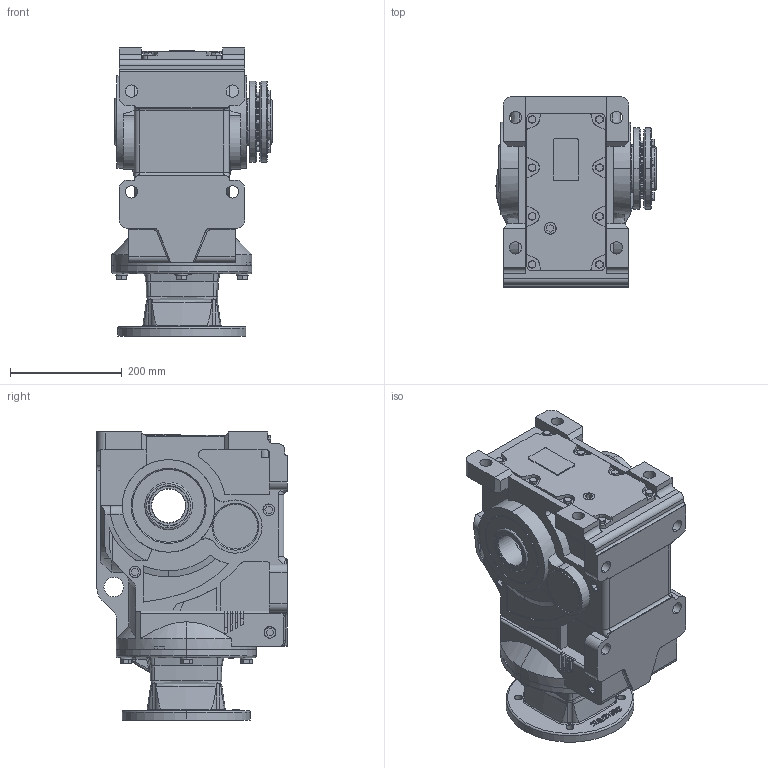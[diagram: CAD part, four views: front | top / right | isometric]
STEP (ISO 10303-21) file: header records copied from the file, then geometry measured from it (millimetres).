
FILE_DESCRIPTION (( 'STEP AP203' ), '1' );
FILE_NAME ('KHN87-213TC-A-POWER LOCK.STEP', '2020-12-04T06:18:37', ( 'Microsoft' ), ( 'Microsoft' ), 'SwSTEP 2.0', 'SolidWorks 2012', '' );
FILE_SCHEMA (( 'CONFIG_CONTROL_DESIGN' ));
Length unit declared in the file: millimetre
Products named in the file (1): KHN87-213TC-A-POWER LOCK
Bounding box: 286 x 340.5 x 514.5 mm (x, y, z)
Volume: 23988499.9 mm3; surface area: 1093304.7 mm2
Topology: 2 solids, 26 shells, 1611 faces, 4067 edges, 2595 vertices
Faces by surface type: plane 717, cylinder 404, cone 291, bspline 149, torus 50
Entity records: 60198 total; most frequent: CARTESIAN_POINT 22121, ORIENTED_EDGE 8070, DIRECTION 7585, EDGE_CURVE 4035, AXIS2_PLACEMENT_3D 2737, VERTEX_POINT 2595, LINE 2111, VECTOR 2111
